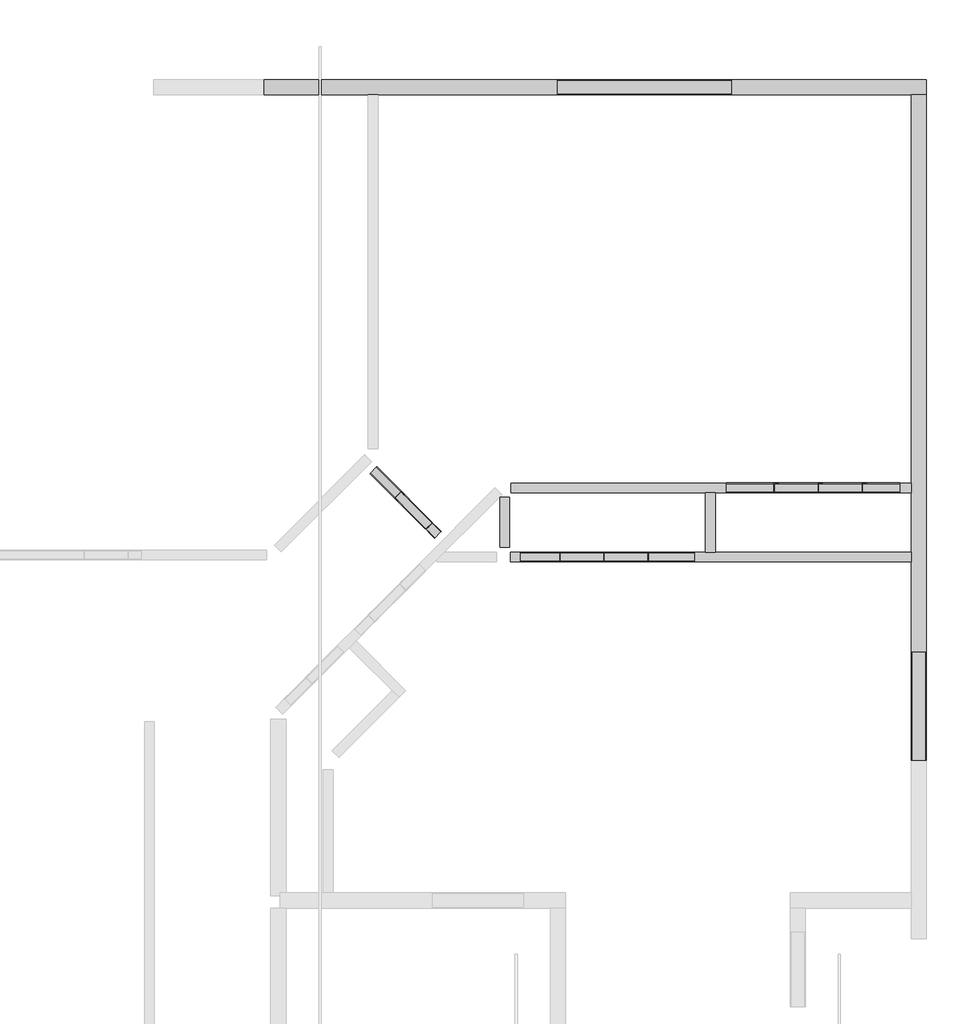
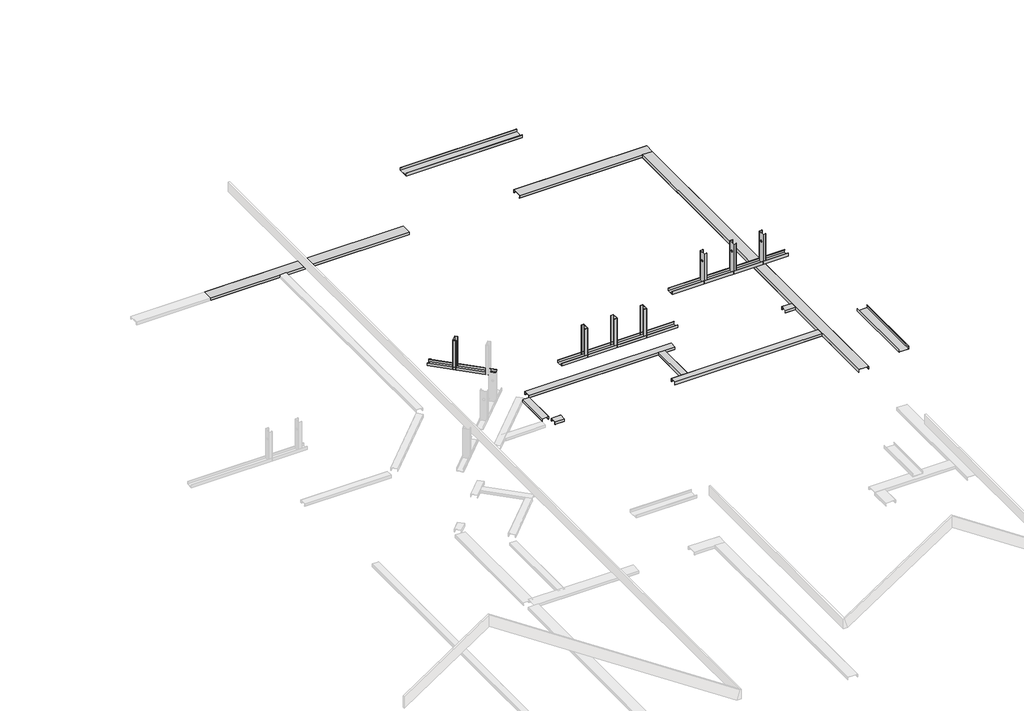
# One storey, part 4 of 4: 14 beams, 7 columns.
"""IFC4 building model written with IfcOpenShell, lengths in millimetres."""

from ifc_helpers import new_model, si_unit, point, frame, origin, place, context, project, spatial, circle_curve, ellipse_curve, trimmed, transform, mapped, element, save
from ifc_brep_helpers import plane_surface, extruded_surface, advanced_brep
from components import beam_350nf150_33_5259f048, beam_350nf150_33_edcdebb8, beam_350nf150_33_9bf1c67c, beam_350nf150_33_264438c5, beam_350nf150_33_f9f27d49, beam_350nf150_33_606cd853, beam_350nf150_33_bf93f831, beam_350nf150_33_fd0ba1fb, beam_550nf150_43_f91dca98, beam_550nf150_43_3a52a995, beam_550nf150_43_ef4a749e, beam_550nf150_43_a34c4b9f, beam_550nf150_43_d58292a1, column_350nf150_33_ca50317c

model = new_model("IFC4")

# Units and contexts
model_context = context("Model", 3, world=origin())
ifc_project = project(units=[si_unit("LENGTHUNIT", "METRE", prefix="MILLI")], contexts=[model_context])

# Site, building, storey
site = spatial("IfcSite", under=ifc_project)
building = spatial("IfcBuilding", under=site)
storey = spatial("IfcBuildingStorey", under=building, Name="H.H. Level 2", Elevation=5143.5)

# Beams
placement = place(None, origin())
beam_350nf150_33_shape = beam_350nf150_33_5259f048(model_context)
element("IfcBeam", 1, ObjectType="BIMSF-SSMA-S : 350NF150-33", at=placement, inside=storey, context=model_context, shape_type="MappedRepresentation", body=[
    mapped(beam_350nf150_33_shape, transform((-7863.2486153, 10116.5864223, 5111.75), x_axis=(0.7071067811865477, -0.7071067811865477, 0.0), y_axis=(0.0, 0.0, -1.0000000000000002), z_axis=(0.7071067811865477, 0.7071067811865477, 0.0))),
])
beam_350nf150_33_2_shape = beam_350nf150_33_edcdebb8(model_context)
element("IfcBeam", 2, ObjectType="BIMSF-SSMA-S : 350NF150-33", at=placement, inside=storey, context=model_context, shape_type="MappedRepresentation", body=[
    mapped(beam_350nf150_33_2_shape, transform((-4113.3413349, 10251.1207511, 5111.75), x_axis=(1.0000000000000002, 0.0, 0.0), y_axis=(0.0, 0.0, -1.0000000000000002), z_axis=(0.0, 1.0000000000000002, 0.0))),
])
element("IfcBeam", 3, ObjectType="BIMSF-SSMA-S : 350NF150-33", at=placement, inside=storey, context=model_context, shape_type="MappedRepresentation", body=[
    mapped(beam_350nf150_33_2_shape, transform((-6004.3049045, 9615.2035298, 5111.75), x_axis=(-1.0000000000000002, 0.0, 0.0), y_axis=(0.0, 0.0, -1.0000000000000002), z_axis=(0.0, -1.0000000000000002, 0.0))),
])
beam_350nf150_33_3_shape = beam_350nf150_33_9bf1c67c(model_context)
element("IfcBeam", 4, ObjectType="BIMSF-SSMA-S : 350NF150-33", at=placement, inside=storey, context=model_context, shape_type="MappedRepresentation", body=[
    mapped(beam_350nf150_33_3_shape, transform((-5883.4515983, 10251.1207511, 4292.61016), x_axis=(1.0, 0.0, 0.0), y_axis=(0.0, 0.0, 1.0), z_axis=(0.0, -1.0, 0.0))),
])
beam_350nf150_33_4_shape = beam_350nf150_33_264438c5(model_context)
element("IfcBeam", 5, ObjectType="BIMSF-SSMA-S : 350NF150-33", at=placement, inside=storey, context=model_context, shape_type="MappedRepresentation", body=[
    mapped(beam_350nf150_33_4_shape, transform((-3281.4913349, 10251.1207511, 4292.61016), x_axis=(1.0, 0.0, 0.0), y_axis=(0.0, 0.0, 1.0), z_axis=(0.0, -1.0, 0.0))),
])
beam_350nf150_33_5_shape = beam_350nf150_33_f9f27d49(model_context)
element("IfcBeam", 6, ObjectType="BIMSF-SSMA-S : 350NF150-33", at=placement, inside=storey, context=model_context, shape_type="MappedRepresentation", body=[
    mapped(beam_350nf150_33_5_shape, transform((-4226.9731197, 9615.2035298, 4292.61016), x_axis=(-1.0, 0.0, 0.0), y_axis=(0.0, 0.0, 1.0), z_axis=(0.0, 1.0, 0.0))),
])
beam_350nf150_33_6_shape = beam_350nf150_33_606cd853(model_context)
element("IfcBeam", 7, ObjectType="BIMSF-SSMA-S : 350NF150-33", at=placement, inside=storey, context=model_context, shape_type="MappedRepresentation", body=[
    mapped(beam_350nf150_33_6_shape, transform((-6832.1861545, 9615.2035298, 4292.61016), x_axis=(-1.0, 0.0, 0.0), y_axis=(0.0, 0.0, 1.0), z_axis=(0.0, 1.0, 0.0))),
])
beam_350nf150_33_7_shape = beam_350nf150_33_bf93f831(model_context)
element("IfcBeam", 8, ObjectType="BIMSF-SSMA-S : 350NF150-33", at=placement, inside=storey, context=model_context, shape_type="MappedRepresentation", body=[
    mapped(beam_350nf150_33_7_shape, transform((-6950.4549045, 9935.1465154, 4292.61016), x_axis=(0.0, -1.0, 0.0), y_axis=(0.0, 0.0, 1.0), z_axis=(-1.0, 0.0, 0.0))),
])
beam_350nf150_33_8_shape = beam_350nf150_33_fd0ba1fb(model_context)
element("IfcBeam", 9, ObjectType="BIMSF-SSMA-S : 350NF150-33", at=placement, inside=storey, context=model_context, shape_type="MappedRepresentation", body=[
    mapped(beam_350nf150_33_8_shape, transform((-5058.8231197, 9933.1621404, 4292.61016), x_axis=(0.0, 1.0, 0.0), y_axis=(0.0, 0.0, 1.0), z_axis=(1.0, 0.0, 0.0))),
])
beam_550nf150_43_shape = beam_550nf150_43_f91dca98(model_context)
element("IfcBeam", 10, ObjectType="BIMSF-SSMA-S : 550NF150-43", at=placement, inside=storey, context=model_context, shape_type="MappedRepresentation", body=[
    mapped(beam_550nf150_43_shape, transform((-3141.7913349, 8242.9332511, 5162.55), x_axis=(0.0, -1.0000000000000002, 0.0), y_axis=(0.0, 0.0, -1.0000000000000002), z_axis=(1.0000000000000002, 0.0, 0.0))),
])
beam_550nf150_43_2_shape = beam_550nf150_43_3a52a995(model_context)
element("IfcBeam", 11, ObjectType="BIMSF-SSMA-S : 550NF150-43", at=placement, inside=storey, context=model_context, shape_type="MappedRepresentation", body=[
    mapped(beam_550nf150_43_2_shape, transform((-3141.7913349, 11282.742736, 4292.61016), x_axis=(0.0, -1.0, 0.0), y_axis=(0.0, 0.0, 1.0), z_axis=(-1.0, 0.0, 0.0))),
])
beam_550nf150_43_3_shape = beam_550nf150_43_ef4a749e(model_context)
element("IfcBeam", 12, ObjectType="BIMSF-SSMA-S : 550NF150-43", at=placement, inside=storey, context=model_context, shape_type="MappedRepresentation", body=[
    mapped(beam_550nf150_43_3_shape, transform((-5665.3824436, 13935.202221, 5162.55), x_axis=(1.0000000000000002, 0.0, 0.0), y_axis=(0.0, 0.0, -1.0000000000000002), z_axis=(0.0, 1.0000000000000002, 0.0))),
])
beam_550nf150_43_4_shape = beam_550nf150_43_a34c4b9f(model_context)
element("IfcBeam", 13, ObjectType="BIMSF-SSMA-S : 550NF150-43", at=placement, inside=storey, context=model_context, shape_type="MappedRepresentation", body=[
    mapped(beam_550nf150_43_4_shape, transform((-3987.6618893, 13935.202221, 4292.61016), x_axis=(1.0, 0.0, 0.0), y_axis=(0.0, 0.0, 1.0), z_axis=(0.0, -1.0, 0.0))),
])
beam_550nf150_43_5_shape = beam_550nf150_43_d58292a1(model_context)
element("IfcBeam", 14, ObjectType="BIMSF-SSMA-S : 550NF150-43", at=placement, inside=storey, context=model_context, shape_type="MappedRepresentation", body=[
    mapped(beam_550nf150_43_5_shape, transform((-7797.6618893, 13935.202221, 4292.61016), x_axis=(1.0, 0.0, 0.0), y_axis=(0.0, 0.0, 1.0), z_axis=(0.0, -1.0, 0.0))),
])

# Columns
element("IfcColumn", 15, ObjectType="BIMSF-SSMA-S-Column : 350NF150-33", at=placement, inside=storey, context=model_context, shape_type="AdvancedBrep", body=[
    advanced_brep(
    [(-4472.2118616, 10206.6707511, 5096.7679688), (-4472.2118616, 10295.5707511, 5096.7679688), (-4434.1118616, 10295.5707511, 5096.7679688), (-4434.1118616, 10289.9132353, 5096.7679688), (-4434.9941774, 10289.9132353, 5096.7679688), (-4434.9941774, 10294.6884353, 5096.7679688), (-4471.3295459, 10294.6884353, 5096.7679688), (-4471.3295459, 10207.5530669, 5096.7679688), (-4434.9941774, 10207.5530669, 5096.7679688), (-4434.9941774, 10212.3282669, 5096.7679688), (-4434.1118616, 10212.3282669, 5096.7679688), (-4434.1118616, 10206.6707511, 5096.7679688), (-4472.2118616, 10206.6707511, 5523.6070313), (-4472.2118616, 10295.5707511, 5523.6070313), (-4472.2118616, 10263.8207511, 5401.5679688), (-4472.2118616, 10238.4207511, 5401.5679688), (-4434.1118616, 10295.5707511, 5523.6070313), (-4434.1118616, 10289.9132353, 5523.6070313), (-4434.9941774, 10289.9132353, 5523.6070313), (-4434.9941774, 10294.6884353, 5523.6070313), (-4471.3295459, 10294.6884353, 5523.6070313), (-4471.3295459, 10207.5530669, 5523.6070313), (-4471.3295459, 10238.4207511, 5401.5679688), (-4471.3295459, 10263.8207511, 5401.5679688), (-4434.9941774, 10207.5530669, 5523.6070313), (-4434.9941774, 10212.3282669, 5523.6070313), (-4434.1118616, 10212.3282669, 5523.6070313), (-4434.1118616, 10206.6707511, 5523.6070313)],
    [
        (0, 1),
        (1, 2),
        (2, 3),
        (3, 4),
        (4, 5),
        (5, 6),
        (6, 7),
        (7, 8),
        (8, 9),
        (9, 10),
        (10, 11),
        (11, 0),
        (0, 12),
        (12, 13),
        (13, 1),
        (14, 15, circle_curve(frame((-4472.2118616, 10251.1207511, 5401.5679688), z_axis=(1.0, 0.0, 0.0), x_axis=(0.0, 1.0, 0.0)), 12.7)),
        (15, 14, circle_curve(frame((-4472.2118616, 10251.1207511, 5401.5679688), z_axis=(1.0, 0.0, 0.0), x_axis=(0.0, 1.0, 0.0)), 12.7)),
        (13, 16),
        (16, 2),
        (16, 17),
        (17, 3),
        (17, 18),
        (18, 4),
        (18, 19),
        (19, 5),
        (19, 20),
        (20, 6),
        (20, 21),
        (21, 7),
        (22, 23, circle_curve(frame((-4471.3295459, 10251.1207511, 5401.5679688), z_axis=(-1.0, 0.0, 0.0), x_axis=(0.0, 1.0, 0.0)), 12.7)),
        (23, 22, circle_curve(frame((-4471.3295459, 10251.1207511, 5401.5679688), z_axis=(-1.0, 0.0, 0.0), x_axis=(0.0, 1.0, 0.0)), 12.7)),
        (21, 24),
        (24, 8),
        (24, 25),
        (25, 9),
        (25, 26),
        (26, 10),
        (26, 27),
        (27, 11),
        (27, 12),
        (22, 15),
        (14, 23),
    ],
    [
        plane_surface(frame((-4472.2118616, 10206.6707511, 5096.7679688), z_axis=(0.0, 0.0, -1.0), x_axis=(-1.0, 0.0, 0.0))),
        plane_surface(frame((-4472.2118616, 10295.5707511, 5523.6070313), z_axis=(-1.0, 0.0, 0.0), x_axis=(0.0, 0.0, -1.0))),
        plane_surface(frame((-4434.1118616, 10295.5707511, 5523.6070313), z_axis=(0.0, 1.0, 0.0), x_axis=(0.0, 0.0, -1.0))),
        plane_surface(frame((-4434.1118616, 10289.9132353, 5523.6070313), z_axis=(1.0, 0.0, 0.0), x_axis=(0.0, 0.0, -1.0))),
        plane_surface(frame((-4434.9941774, 10289.9132353, 5523.6070313), z_axis=(0.0, -1.0, 0.0), x_axis=(0.0, 0.0, -1.0))),
        plane_surface(frame((-4434.9941774, 10294.6884353, 5523.6070313), z_axis=(-1.0, 0.0, 0.0), x_axis=(0.0, 0.0, -1.0))),
        plane_surface(frame((-4471.3295459, 10294.6884353, 5523.6070313), z_axis=(0.0, -1.0, 0.0), x_axis=(0.0, 0.0, -1.0))),
        plane_surface(frame((-4471.3295459, 10207.5530669, 5523.6070313), z_axis=(1.0, 0.0, 0.0), x_axis=(0.0, 0.0, -1.0))),
        plane_surface(frame((-4434.9941774, 10207.5530669, 5523.6070313), z_axis=(0.0, 1.0, 0.0), x_axis=(0.0, 0.0, -1.0))),
        plane_surface(frame((-4434.9941774, 10212.3282669, 5523.6070313), z_axis=(-1.0, 0.0, 0.0), x_axis=(0.0, 0.0, -1.0))),
        plane_surface(frame((-4434.1118616, 10212.3282669, 5523.6070313), z_axis=(0.0, 1.0, 0.0), x_axis=(0.0, 0.0, -1.0))),
        plane_surface(frame((-4434.1118616, 10206.6707511, 5523.6070313), z_axis=(1.0, 0.0, 0.0), x_axis=(0.0, 0.0, -1.0))),
        plane_surface(frame((-4472.2118616, 10206.6707511, 5523.6070313), z_axis=(0.0, -1.0, 0.0), x_axis=(0.0, 0.0, -1.0))),
        plane_surface(frame((-4472.2118616, 10206.6707511, 5523.6070313), z_axis=(0.0, 0.0, 1.0), x_axis=(1.0, 0.0, 0.0))),
        extruded_surface(trimmed(ellipse_curve(frame((-4026.3227991, 10251.1207511, 5401.5679688), z_axis=(-1.0, 0.0, 0.0), x_axis=(0.0, 1.0, 0.0)), 12.7, 12.7), [point((-4026.3227991, 10238.4207511, 5401.5679688))], [point((-4026.3227991, 10263.8207511, 5401.5679688))], True, "CARTESIAN"), (853.6781249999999, 0.0, 0.0), 853.6781249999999),
        extruded_surface(trimmed(ellipse_curve(frame((-4026.3227991, 10251.1207511, 5401.5679688), z_axis=(-1.0, 0.0, 0.0), x_axis=(0.0, 1.0, 0.0)), 12.7, 12.7), [point((-4026.3227991, 10263.8207511, 5401.5679688))], [point((-4026.3227991, 10238.4207511, 5401.5679688))], True, "CARTESIAN"), (853.6781249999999, 0.0, 0.0), 853.6781249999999),
    ],
    [
        (0, [[1, 2, 3, 4, 5, 6, 7, 8, 9, 10, 11, 12]]),
        (1, [[-1, 13, 14, 15], [16, 17]]),
        (2, [[-2, -15, 18, 19]]),
        (3, [[-3, -19, 20, 21]]),
        (4, [[-4, -21, 22, 23]]),
        (5, [[-5, -23, 24, 25]]),
        (6, [[-6, -25, 26, 27]]),
        (7, [[-7, -27, 28, 29], [30, 31]]),
        (8, [[-8, -29, 32, 33]]),
        (9, [[-9, -33, 34, 35]]),
        (10, [[-10, -35, 36, 37]]),
        (11, [[-11, -37, 38, 39]]),
        (12, [[-12, -39, 40, -13]]),
        (13, [[-14, -40, -38, -36, -34, -32, -28, -26, -24, -22, -20, -18]]),
        (14, [[41, -16, 42, -30]]),
        (15, [[-41, -31, -42, -17]]),
    ],
),
])
element("IfcColumn", 16, ObjectType="BIMSF-SSMA-S-Column : 350NF150-33", at=placement, inside=storey, context=model_context, shape_type="AdvancedBrep", body=[
    advanced_brep(
    [(-4065.8118616, 10206.6707511, 5096.7679688), (-4065.8118616, 10295.5707511, 5096.7679688), (-4027.7118616, 10295.5707511, 5096.7679688), (-4027.7118616, 10289.9132353, 5096.7679688), (-4028.5941774, 10289.9132353, 5096.7679688), (-4028.5941774, 10294.6884353, 5096.7679688), (-4064.9295459, 10294.6884353, 5096.7679688), (-4064.9295459, 10207.5530669, 5096.7679688), (-4028.5941774, 10207.5530669, 5096.7679688), (-4028.5941774, 10212.3282669, 5096.7679688), (-4027.7118616, 10212.3282669, 5096.7679688), (-4027.7118616, 10206.6707511, 5096.7679688), (-4065.8118616, 10206.6707511, 5523.6070313), (-4065.8118616, 10295.5707511, 5523.6070313), (-4065.8118616, 10263.8207511, 5401.5679688), (-4065.8118616, 10238.4207511, 5401.5679688), (-4027.7118616, 10295.5707511, 5523.6070313), (-4027.7118616, 10289.9132353, 5523.6070313), (-4028.5941774, 10289.9132353, 5523.6070313), (-4028.5941774, 10294.6884353, 5523.6070313), (-4064.9295459, 10294.6884353, 5523.6070313), (-4064.9295459, 10207.5530669, 5523.6070313), (-4064.9295459, 10238.4207511, 5401.5679688), (-4064.9295459, 10263.8207511, 5401.5679688), (-4028.5941774, 10207.5530669, 5523.6070313), (-4028.5941774, 10212.3282669, 5523.6070313), (-4027.7118616, 10212.3282669, 5523.6070313), (-4027.7118616, 10206.6707511, 5523.6070313)],
    [
        (0, 1),
        (1, 2),
        (2, 3),
        (3, 4),
        (4, 5),
        (5, 6),
        (6, 7),
        (7, 8),
        (8, 9),
        (9, 10),
        (10, 11),
        (11, 0),
        (0, 12),
        (12, 13),
        (13, 1),
        (14, 15, circle_curve(frame((-4065.8118616, 10251.1207511, 5401.5679688), z_axis=(1.0, 0.0, 0.0), x_axis=(0.0, 1.0, 0.0)), 12.7)),
        (15, 14, circle_curve(frame((-4065.8118616, 10251.1207511, 5401.5679688), z_axis=(1.0, 0.0, 0.0), x_axis=(0.0, 1.0, 0.0)), 12.7)),
        (13, 16),
        (16, 2),
        (16, 17),
        (17, 3),
        (17, 18),
        (18, 4),
        (18, 19),
        (19, 5),
        (19, 20),
        (20, 6),
        (20, 21),
        (21, 7),
        (22, 23, circle_curve(frame((-4064.9295459, 10251.1207511, 5401.5679688), z_axis=(-1.0, 0.0, 0.0), x_axis=(0.0, 1.0, 0.0)), 12.7)),
        (23, 22, circle_curve(frame((-4064.9295459, 10251.1207511, 5401.5679688), z_axis=(-1.0, 0.0, 0.0), x_axis=(0.0, 1.0, 0.0)), 12.7)),
        (21, 24),
        (24, 8),
        (24, 25),
        (25, 9),
        (25, 26),
        (26, 10),
        (26, 27),
        (27, 11),
        (27, 12),
        (22, 15),
        (14, 23),
    ],
    [
        plane_surface(frame((-4065.8118616, 10206.6707511, 5096.7679688), z_axis=(0.0, 0.0, -1.0), x_axis=(-1.0, 0.0, 0.0))),
        plane_surface(frame((-4065.8118616, 10295.5707511, 5523.6070313), z_axis=(-1.0, 0.0, 0.0), x_axis=(0.0, 0.0, -1.0))),
        plane_surface(frame((-4027.7118616, 10295.5707511, 5523.6070313), z_axis=(0.0, 1.0, 0.0), x_axis=(0.0, 0.0, -1.0))),
        plane_surface(frame((-4027.7118616, 10289.9132353, 5523.6070313), z_axis=(1.0, 0.0, 0.0), x_axis=(0.0, 0.0, -1.0))),
        plane_surface(frame((-4028.5941774, 10289.9132353, 5523.6070313), z_axis=(0.0, -1.0, 0.0), x_axis=(0.0, 0.0, -1.0))),
        plane_surface(frame((-4028.5941774, 10294.6884353, 5523.6070313), z_axis=(-1.0, 0.0, 0.0), x_axis=(0.0, 0.0, -1.0))),
        plane_surface(frame((-4064.9295459, 10294.6884353, 5523.6070313), z_axis=(0.0, -1.0, 0.0), x_axis=(0.0, 0.0, -1.0))),
        plane_surface(frame((-4064.9295459, 10207.5530669, 5523.6070313), z_axis=(1.0, 0.0, 0.0), x_axis=(0.0, 0.0, -1.0))),
        plane_surface(frame((-4028.5941774, 10207.5530669, 5523.6070313), z_axis=(0.0, 1.0, 0.0), x_axis=(0.0, 0.0, -1.0))),
        plane_surface(frame((-4028.5941774, 10212.3282669, 5523.6070313), z_axis=(-1.0, 0.0, 0.0), x_axis=(0.0, 0.0, -1.0))),
        plane_surface(frame((-4027.7118616, 10212.3282669, 5523.6070313), z_axis=(0.0, 1.0, 0.0), x_axis=(0.0, 0.0, -1.0))),
        plane_surface(frame((-4027.7118616, 10206.6707511, 5523.6070313), z_axis=(1.0, 0.0, 0.0), x_axis=(0.0, 0.0, -1.0))),
        plane_surface(frame((-4065.8118616, 10206.6707511, 5523.6070313), z_axis=(0.0, -1.0, 0.0), x_axis=(0.0, 0.0, -1.0))),
        plane_surface(frame((-4065.8118616, 10206.6707511, 5523.6070313), z_axis=(0.0, 0.0, 1.0), x_axis=(1.0, 0.0, 0.0))),
        extruded_surface(trimmed(ellipse_curve(frame((-3619.9227991, 10251.1207511, 5401.5679688), z_axis=(-1.0, 0.0, 0.0), x_axis=(0.0, 1.0, 0.0)), 12.7, 12.7), [point((-3619.9227991, 10238.4207511, 5401.5679688))], [point((-3619.9227991, 10263.8207511, 5401.5679688))], True, "CARTESIAN"), (853.6781249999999, 0.0, 0.0), 853.6781249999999),
        extruded_surface(trimmed(ellipse_curve(frame((-3619.9227991, 10251.1207511, 5401.5679688), z_axis=(-1.0, 0.0, 0.0), x_axis=(0.0, 1.0, 0.0)), 12.7, 12.7), [point((-3619.9227991, 10263.8207511, 5401.5679688))], [point((-3619.9227991, 10238.4207511, 5401.5679688))], True, "CARTESIAN"), (853.6781249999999, 0.0, 0.0), 853.6781249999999),
    ],
    [
        (0, [[1, 2, 3, 4, 5, 6, 7, 8, 9, 10, 11, 12]]),
        (1, [[-1, 13, 14, 15], [16, 17]]),
        (2, [[-2, -15, 18, 19]]),
        (3, [[-3, -19, 20, 21]]),
        (4, [[-4, -21, 22, 23]]),
        (5, [[-5, -23, 24, 25]]),
        (6, [[-6, -25, 26, 27]]),
        (7, [[-7, -27, 28, 29], [30, 31]]),
        (8, [[-8, -29, 32, 33]]),
        (9, [[-9, -33, 34, 35]]),
        (10, [[-10, -35, 36, 37]]),
        (11, [[-11, -37, 38, 39]]),
        (12, [[-12, -39, 40, -13]]),
        (13, [[-14, -40, -38, -36, -34, -32, -28, -26, -24, -22, -20, -18]]),
        (14, [[41, -16, 42, -30]]),
        (15, [[-41, -31, -42, -17]]),
    ],
),
])
element("IfcColumn", 17, ObjectType="BIMSF-SSMA-S-Column : 350NF150-33", at=placement, inside=storey, context=model_context, shape_type="AdvancedBrep", body=[
    advanced_brep(
    [(-3659.4118616, 10206.6707511, 5096.7679688), (-3659.4118616, 10295.5707511, 5096.7679688), (-3621.3118616, 10295.5707511, 5096.7679688), (-3621.3118616, 10289.9132353, 5096.7679688), (-3622.1941774, 10289.9132353, 5096.7679688), (-3622.1941774, 10294.6884353, 5096.7679688), (-3658.5295459, 10294.6884353, 5096.7679688), (-3658.5295459, 10207.5530669, 5096.7679688), (-3622.1941774, 10207.5530669, 5096.7679688), (-3622.1941774, 10212.3282669, 5096.7679688), (-3621.3118616, 10212.3282669, 5096.7679688), (-3621.3118616, 10206.6707511, 5096.7679688), (-3659.4118616, 10206.6707511, 5523.6070313), (-3659.4118616, 10295.5707511, 5523.6070313), (-3659.4118616, 10263.8207511, 5401.5679688), (-3659.4118616, 10238.4207511, 5401.5679688), (-3621.3118616, 10295.5707511, 5523.6070313), (-3621.3118616, 10289.9132353, 5523.6070313), (-3622.1941774, 10289.9132353, 5523.6070313), (-3622.1941774, 10294.6884353, 5523.6070313), (-3658.5295459, 10294.6884353, 5523.6070313), (-3658.5295459, 10207.5530669, 5523.6070313), (-3658.5295459, 10238.4207511, 5401.5679688), (-3658.5295459, 10263.8207511, 5401.5679688), (-3622.1941774, 10207.5530669, 5523.6070313), (-3622.1941774, 10212.3282669, 5523.6070313), (-3621.3118616, 10212.3282669, 5523.6070313), (-3621.3118616, 10206.6707511, 5523.6070313)],
    [
        (0, 1),
        (1, 2),
        (2, 3),
        (3, 4),
        (4, 5),
        (5, 6),
        (6, 7),
        (7, 8),
        (8, 9),
        (9, 10),
        (10, 11),
        (11, 0),
        (0, 12),
        (12, 13),
        (13, 1),
        (14, 15, circle_curve(frame((-3659.4118616, 10251.1207511, 5401.5679688), z_axis=(1.0, 0.0, 0.0), x_axis=(0.0, 1.0, 0.0)), 12.7)),
        (15, 14, circle_curve(frame((-3659.4118616, 10251.1207511, 5401.5679688), z_axis=(1.0, 0.0, 0.0), x_axis=(0.0, 1.0, 0.0)), 12.7)),
        (13, 16),
        (16, 2),
        (16, 17),
        (17, 3),
        (17, 18),
        (18, 4),
        (18, 19),
        (19, 5),
        (19, 20),
        (20, 6),
        (20, 21),
        (21, 7),
        (22, 23, circle_curve(frame((-3658.5295459, 10251.1207511, 5401.5679688), z_axis=(-1.0, 0.0, 0.0), x_axis=(0.0, 1.0, 0.0)), 12.7)),
        (23, 22, circle_curve(frame((-3658.5295459, 10251.1207511, 5401.5679687), z_axis=(-1.0, 0.0, 0.0), x_axis=(0.0, 1.0, 0.0)), 12.7)),
        (21, 24),
        (24, 8),
        (24, 25),
        (25, 9),
        (25, 26),
        (26, 10),
        (26, 27),
        (27, 11),
        (27, 12),
        (22, 15),
        (14, 23),
    ],
    [
        plane_surface(frame((-3659.4118616, 10206.6707511, 5096.7679688), z_axis=(0.0, 0.0, -1.0), x_axis=(-1.0, 0.0, 0.0))),
        plane_surface(frame((-3659.4118616, 10295.5707511, 5523.6070313), z_axis=(-1.0, 0.0, 0.0), x_axis=(0.0, 0.0, -1.0))),
        plane_surface(frame((-3621.3118616, 10295.5707511, 5523.6070313), z_axis=(0.0, 1.0, 0.0), x_axis=(0.0, 0.0, -1.0))),
        plane_surface(frame((-3621.3118616, 10289.9132353, 5523.6070313), z_axis=(1.0, 0.0, 0.0), x_axis=(0.0, 0.0, -1.0))),
        plane_surface(frame((-3622.1941774, 10289.9132353, 5523.6070313), z_axis=(0.0, -1.0, 0.0), x_axis=(0.0, 0.0, -1.0))),
        plane_surface(frame((-3622.1941774, 10294.6884353, 5523.6070313), z_axis=(-1.0, 0.0, 0.0), x_axis=(0.0, 0.0, -1.0))),
        plane_surface(frame((-3658.5295459, 10294.6884353, 5523.6070313), z_axis=(0.0, -1.0, 0.0), x_axis=(0.0, 0.0, -1.0))),
        plane_surface(frame((-3658.5295459, 10207.5530669, 5523.6070313), z_axis=(1.0, 0.0, 0.0), x_axis=(0.0, 0.0, -1.0))),
        plane_surface(frame((-3622.1941774, 10207.5530669, 5523.6070313), z_axis=(0.0, 1.0, 0.0), x_axis=(0.0, 0.0, -1.0))),
        plane_surface(frame((-3622.1941774, 10212.3282669, 5523.6070313), z_axis=(-1.0, 0.0, 0.0), x_axis=(0.0, 0.0, -1.0))),
        plane_surface(frame((-3621.3118616, 10212.3282669, 5523.6070313), z_axis=(0.0, 1.0, 0.0), x_axis=(0.0, 0.0, -1.0))),
        plane_surface(frame((-3621.3118616, 10206.6707511, 5523.6070313), z_axis=(1.0, 0.0, 0.0), x_axis=(0.0, 0.0, -1.0))),
        plane_surface(frame((-3659.4118616, 10206.6707511, 5523.6070313), z_axis=(0.0, -1.0, 0.0), x_axis=(0.0, 0.0, -1.0))),
        plane_surface(frame((-3659.4118616, 10206.6707511, 5523.6070313), z_axis=(0.0, 0.0, 1.0), x_axis=(1.0, 0.0, 0.0))),
        extruded_surface(trimmed(ellipse_curve(frame((-3213.5227991, 10251.1207511, 5401.5679688), z_axis=(-1.0, 0.0, 0.0), x_axis=(0.0, 1.0, 0.0)), 12.7, 12.7), [point((-3213.5227991, 10238.4207511, 5401.5679688))], [point((-3213.5227991, 10263.8207511, 5401.5679688))], True, "CARTESIAN"), (853.6781250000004, 0.0, 0.0), 853.6781250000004),
        extruded_surface(trimmed(ellipse_curve(frame((-3213.5227991, 10251.1207511, 5401.5679688), z_axis=(-1.0, 0.0, 0.0), x_axis=(0.0, 1.0, 0.0)), 12.7, 12.7), [point((-3213.5227991, 10263.8207511, 5401.5679688))], [point((-3213.5227991, 10238.4207511, 5401.5679688))], True, "CARTESIAN"), (853.6781250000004, 0.0, 0.0), 853.6781250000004),
    ],
    [
        (0, [[1, 2, 3, 4, 5, 6, 7, 8, 9, 10, 11, 12]]),
        (1, [[-1, 13, 14, 15], [16, 17]]),
        (2, [[-2, -15, 18, 19]]),
        (3, [[-3, -19, 20, 21]]),
        (4, [[-4, -21, 22, 23]]),
        (5, [[-5, -23, 24, 25]]),
        (6, [[-6, -25, 26, 27]]),
        (7, [[-7, -27, 28, 29], [30, 31]]),
        (8, [[-8, -29, 32, 33]]),
        (9, [[-9, -33, 34, 35]]),
        (10, [[-10, -35, 36, 37]]),
        (11, [[-11, -37, 38, 39]]),
        (12, [[-12, -39, 40, -13]]),
        (13, [[-14, -40, -38, -36, -34, -32, -28, -26, -24, -22, -20, -18]]),
        (14, [[41, -16, 42, -30]]),
        (15, [[-41, -31, -42, -17]]),
    ],
),
])
element("IfcColumn", 18, ObjectType="BIMSF-SSMA-S-Column : 350NF150-33", at=placement, inside=storey, context=model_context, shape_type="AdvancedBrep", body=[
    advanced_brep(
    [(-5630.9913349, 9659.6535298, 5096.7679688), (-5630.9913349, 9570.7535298, 5096.7679688), (-5669.0913349, 9570.7535298, 5096.7679688), (-5669.0913349, 9576.4110455, 5096.7679688), (-5668.2090191, 9576.4110455, 5096.7679688), (-5668.2090191, 9571.6358455, 5096.7679688), (-5631.8736507, 9571.6358455, 5096.7679688), (-5631.8736507, 9658.771214, 5096.7679688), (-5668.2090191, 9658.771214, 5096.7679688), (-5668.2090191, 9653.996014, 5096.7679688), (-5669.0913349, 9653.996014, 5096.7679688), (-5669.0913349, 9659.6535298, 5096.7679688), (-5630.9913349, 9659.6535298, 5523.6070313), (-5630.9913349, 9570.7535298, 5523.6070313), (-5630.9913349, 9602.5035298, 5401.5679688), (-5630.9913349, 9627.9035298, 5401.5679688), (-5669.0913349, 9570.7535298, 5523.6070313), (-5669.0913349, 9576.4110455, 5523.6070313), (-5668.2090191, 9576.4110455, 5523.6070313), (-5668.2090191, 9571.6358455, 5523.6070313), (-5631.8736507, 9571.6358455, 5523.6070313), (-5631.8736507, 9658.771214, 5523.6070313), (-5631.8736507, 9627.9035298, 5401.5679688), (-5631.8736507, 9602.5035298, 5401.5679688), (-5668.2090191, 9658.771214, 5523.6070313), (-5668.2090191, 9653.996014, 5523.6070313), (-5669.0913349, 9653.996014, 5523.6070313), (-5669.0913349, 9659.6535298, 5523.6070313)],
    [
        (0, 1),
        (1, 2),
        (2, 3),
        (3, 4),
        (4, 5),
        (5, 6),
        (6, 7),
        (7, 8),
        (8, 9),
        (9, 10),
        (10, 11),
        (11, 0),
        (0, 12),
        (12, 13),
        (13, 1),
        (14, 15, circle_curve(frame((-5630.9913349, 9615.2035298, 5401.5679688), z_axis=(-1.0, 0.0, 0.0), x_axis=(0.0, -1.0, 0.0)), 12.7)),
        (15, 14, circle_curve(frame((-5630.9913349, 9615.2035298, 5401.5679688), z_axis=(-1.0, 0.0, 0.0), x_axis=(0.0, -1.0, 0.0)), 12.7)),
        (13, 16),
        (16, 2),
        (16, 17),
        (17, 3),
        (17, 18),
        (18, 4),
        (18, 19),
        (19, 5),
        (19, 20),
        (20, 6),
        (20, 21),
        (21, 7),
        (22, 23, circle_curve(frame((-5631.8736507, 9615.2035298, 5401.5679688), z_axis=(1.0, 0.0, 0.0), x_axis=(0.0, -1.0, 0.0)), 12.7)),
        (23, 22, circle_curve(frame((-5631.8736507, 9615.2035298, 5401.5679688), z_axis=(1.0, 0.0, 0.0), x_axis=(0.0, -1.0, 0.0)), 12.7)),
        (21, 24),
        (24, 8),
        (24, 25),
        (25, 9),
        (25, 26),
        (26, 10),
        (26, 27),
        (27, 11),
        (27, 12),
        (22, 15),
        (14, 23),
    ],
    [
        plane_surface(frame((-5630.9913349, 9659.6535298, 5096.7679688), z_axis=(0.0, 0.0, -1.0), x_axis=(1.0, 0.0, 0.0))),
        plane_surface(frame((-5630.9913349, 9570.7535298, 5523.6070313), z_axis=(1.0, 0.0, 0.0), x_axis=(0.0, 0.0, -1.0))),
        plane_surface(frame((-5669.0913349, 9570.7535298, 5523.6070313), z_axis=(0.0, -1.0, 0.0), x_axis=(0.0, 0.0, -1.0))),
        plane_surface(frame((-5669.0913349, 9576.4110455, 5523.6070313), z_axis=(-1.0, 0.0, 0.0), x_axis=(0.0, 0.0, -1.0))),
        plane_surface(frame((-5668.2090191, 9576.4110455, 5523.6070313), z_axis=(0.0, 1.0, 0.0), x_axis=(0.0, 0.0, -1.0))),
        plane_surface(frame((-5668.2090191, 9571.6358455, 5523.6070313), z_axis=(1.0, 0.0, 0.0), x_axis=(0.0, 0.0, -1.0))),
        plane_surface(frame((-5631.8736507, 9571.6358455, 5523.6070313), z_axis=(0.0, 1.0, 0.0), x_axis=(0.0, 0.0, -1.0))),
        plane_surface(frame((-5631.8736507, 9658.771214, 5523.6070313), z_axis=(-1.0, 0.0, 0.0), x_axis=(0.0, 0.0, -1.0))),
        plane_surface(frame((-5668.2090191, 9658.771214, 5523.6070313), z_axis=(0.0, -1.0, 0.0), x_axis=(0.0, 0.0, -1.0))),
        plane_surface(frame((-5668.2090191, 9653.996014, 5523.6070313), z_axis=(1.0, 0.0, 0.0), x_axis=(0.0, 0.0, -1.0))),
        plane_surface(frame((-5669.0913349, 9653.996014, 5523.6070313), z_axis=(0.0, -1.0, 0.0), x_axis=(0.0, 0.0, -1.0))),
        plane_surface(frame((-5669.0913349, 9659.6535298, 5523.6070313), z_axis=(-1.0, 0.0, 0.0), x_axis=(0.0, 0.0, -1.0))),
        plane_surface(frame((-5630.9913349, 9659.6535298, 5523.6070313), z_axis=(0.0, 1.0, 0.0), x_axis=(0.0, 0.0, -1.0))),
        plane_surface(frame((-5630.9913349, 9659.6535298, 5523.6070313), z_axis=(0.0, 0.0, 1.0), x_axis=(-1.0, 0.0, 0.0))),
        extruded_surface(trimmed(ellipse_curve(frame((-6076.8803974, 9615.2035298, 5401.5679688), z_axis=(1.0, 0.0, 0.0), x_axis=(0.0, -1.0, 0.0)), 12.7, 12.7), [point((-6076.8803974, 9627.9035298, 5401.5679688))], [point((-6076.8803974, 9602.5035298, 5401.5679688))], True, "CARTESIAN"), (-853.6781249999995, 0.0, 0.0), 853.6781249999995),
        extruded_surface(trimmed(ellipse_curve(frame((-6076.8803974, 9615.2035298, 5401.5679688), z_axis=(1.0, 0.0, 0.0), x_axis=(0.0, -1.0, 0.0)), 12.7, 12.7), [point((-6076.8803974, 9602.5035298, 5401.5679688))], [point((-6076.8803974, 9627.9035298, 5401.5679688))], True, "CARTESIAN"), (-853.6781249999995, 0.0, 0.0), 853.6781249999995),
    ],
    [
        (0, [[1, 2, 3, 4, 5, 6, 7, 8, 9, 10, 11, 12]]),
        (1, [[-1, 13, 14, 15], [16, 17]]),
        (2, [[-2, -15, 18, 19]]),
        (3, [[-3, -19, 20, 21]]),
        (4, [[-4, -21, 22, 23]]),
        (5, [[-5, -23, 24, 25]]),
        (6, [[-6, -25, 26, 27]]),
        (7, [[-7, -27, 28, 29], [30, 31]]),
        (8, [[-8, -29, 32, 33]]),
        (9, [[-9, -33, 34, 35]]),
        (10, [[-10, -35, 36, 37]]),
        (11, [[-11, -37, 38, 39]]),
        (12, [[-12, -39, 40, -13]]),
        (13, [[-14, -40, -38, -36, -34, -32, -28, -26, -24, -22, -20, -18]]),
        (14, [[41, -16, 42, -30]]),
        (15, [[-41, -31, -42, -17]]),
    ],
),
])
element("IfcColumn", 19, ObjectType="BIMSF-SSMA-S-Column : 350NF150-33", at=placement, inside=storey, context=model_context, shape_type="AdvancedBrep", body=[
    advanced_brep(
    [(-6037.3913349, 9659.6535298, 5096.7679688), (-6037.3913349, 9570.7535298, 5096.7679688), (-6075.4913349, 9570.7535298, 5096.7679688), (-6075.4913349, 9576.4110455, 5096.7679688), (-6074.6090191, 9576.4110455, 5096.7679688), (-6074.6090191, 9571.6358455, 5096.7679688), (-6038.2736507, 9571.6358455, 5096.7679688), (-6038.2736507, 9658.771214, 5096.7679688), (-6074.6090191, 9658.771214, 5096.7679688), (-6074.6090191, 9653.996014, 5096.7679688), (-6075.4913349, 9653.996014, 5096.7679688), (-6075.4913349, 9659.6535298, 5096.7679688), (-6037.3913349, 9659.6535298, 5523.6070313), (-6037.3913349, 9570.7535298, 5523.6070313), (-6037.3913349, 9602.5035298, 5401.5679688), (-6037.3913349, 9627.9035298, 5401.5679688), (-6075.4913349, 9570.7535298, 5523.6070313), (-6075.4913349, 9576.4110455, 5523.6070313), (-6074.6090191, 9576.4110455, 5523.6070313), (-6074.6090191, 9571.6358455, 5523.6070313), (-6038.2736507, 9571.6358455, 5523.6070313), (-6038.2736507, 9658.771214, 5523.6070313), (-6038.2736507, 9627.9035298, 5401.5679688), (-6038.2736507, 9602.5035298, 5401.5679688), (-6074.6090191, 9658.771214, 5523.6070313), (-6074.6090191, 9653.996014, 5523.6070313), (-6075.4913349, 9653.996014, 5523.6070313), (-6075.4913349, 9659.6535298, 5523.6070313)],
    [
        (0, 1),
        (1, 2),
        (2, 3),
        (3, 4),
        (4, 5),
        (5, 6),
        (6, 7),
        (7, 8),
        (8, 9),
        (9, 10),
        (10, 11),
        (11, 0),
        (0, 12),
        (12, 13),
        (13, 1),
        (14, 15, circle_curve(frame((-6037.3913349, 9615.2035298, 5401.5679688), z_axis=(-1.0, 0.0, 0.0), x_axis=(0.0, -1.0, 0.0)), 12.7)),
        (15, 14, circle_curve(frame((-6037.3913349, 9615.2035298, 5401.5679688), z_axis=(-1.0, 0.0, 0.0), x_axis=(0.0, -1.0, 0.0)), 12.7)),
        (13, 16),
        (16, 2),
        (16, 17),
        (17, 3),
        (17, 18),
        (18, 4),
        (18, 19),
        (19, 5),
        (19, 20),
        (20, 6),
        (20, 21),
        (21, 7),
        (22, 23, circle_curve(frame((-6038.2736507, 9615.2035298, 5401.5679688), z_axis=(1.0, 0.0, 0.0), x_axis=(0.0, -1.0, 0.0)), 12.7)),
        (23, 22, circle_curve(frame((-6038.2736507, 9615.2035298, 5401.5679688), z_axis=(1.0, 0.0, 0.0), x_axis=(0.0, -1.0, 0.0)), 12.7)),
        (21, 24),
        (24, 8),
        (24, 25),
        (25, 9),
        (25, 26),
        (26, 10),
        (26, 27),
        (27, 11),
        (27, 12),
        (22, 15),
        (14, 23),
    ],
    [
        plane_surface(frame((-6037.3913349, 9659.6535298, 5096.7679688), z_axis=(0.0, 0.0, -1.0), x_axis=(1.0, 0.0, 0.0))),
        plane_surface(frame((-6037.3913349, 9570.7535298, 5523.6070313), z_axis=(1.0, 0.0, 0.0), x_axis=(0.0, 0.0, -1.0))),
        plane_surface(frame((-6075.4913349, 9570.7535298, 5523.6070313), z_axis=(0.0, -1.0, 0.0), x_axis=(0.0, 0.0, -1.0))),
        plane_surface(frame((-6075.4913349, 9576.4110455, 5523.6070313), z_axis=(-1.0, 0.0, 0.0), x_axis=(0.0, 0.0, -1.0))),
        plane_surface(frame((-6074.6090191, 9576.4110455, 5523.6070313), z_axis=(0.0, 1.0, 0.0), x_axis=(0.0, 0.0, -1.0))),
        plane_surface(frame((-6074.6090191, 9571.6358455, 5523.6070313), z_axis=(1.0, 0.0, 0.0), x_axis=(0.0, 0.0, -1.0))),
        plane_surface(frame((-6038.2736507, 9571.6358455, 5523.6070313), z_axis=(0.0, 1.0, 0.0), x_axis=(0.0, 0.0, -1.0))),
        plane_surface(frame((-6038.2736507, 9658.771214, 5523.6070313), z_axis=(-1.0, 0.0, 0.0), x_axis=(0.0, 0.0, -1.0))),
        plane_surface(frame((-6074.6090191, 9658.771214, 5523.6070313), z_axis=(0.0, -1.0, 0.0), x_axis=(0.0, 0.0, -1.0))),
        plane_surface(frame((-6074.6090191, 9653.996014, 5523.6070313), z_axis=(1.0, 0.0, 0.0), x_axis=(0.0, 0.0, -1.0))),
        plane_surface(frame((-6075.4913349, 9653.996014, 5523.6070313), z_axis=(0.0, -1.0, 0.0), x_axis=(0.0, 0.0, -1.0))),
        plane_surface(frame((-6075.4913349, 9659.6535298, 5523.6070313), z_axis=(-1.0, 0.0, 0.0), x_axis=(0.0, 0.0, -1.0))),
        plane_surface(frame((-6037.3913349, 9659.6535298, 5523.6070313), z_axis=(0.0, 1.0, 0.0), x_axis=(0.0, 0.0, -1.0))),
        plane_surface(frame((-6037.3913349, 9659.6535298, 5523.6070313), z_axis=(0.0, 0.0, 1.0), x_axis=(-1.0, 0.0, 0.0))),
        extruded_surface(trimmed(ellipse_curve(frame((-6483.2803974, 9615.2035298, 5401.5679688), z_axis=(1.0, 0.0, 0.0), x_axis=(0.0, -1.0, 0.0)), 12.7, 12.7), [point((-6483.2803974, 9627.9035298, 5401.5679688))], [point((-6483.2803974, 9602.5035298, 5401.5679688))], True, "CARTESIAN"), (-853.6781250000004, 0.0, 0.0), 853.6781250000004),
        extruded_surface(trimmed(ellipse_curve(frame((-6483.2803974, 9615.2035298, 5401.5679688), z_axis=(1.0, 0.0, 0.0), x_axis=(0.0, -1.0, 0.0)), 12.7, 12.7), [point((-6483.2803974, 9602.5035298, 5401.5679688))], [point((-6483.2803974, 9627.9035298, 5401.5679688))], True, "CARTESIAN"), (-853.6781250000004, 0.0, 0.0), 853.6781250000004),
    ],
    [
        (0, [[1, 2, 3, 4, 5, 6, 7, 8, 9, 10, 11, 12]]),
        (1, [[-1, 13, 14, 15], [16, 17]]),
        (2, [[-2, -15, 18, 19]]),
        (3, [[-3, -19, 20, 21]]),
        (4, [[-4, -21, 22, 23]]),
        (5, [[-5, -23, 24, 25]]),
        (6, [[-6, -25, 26, 27]]),
        (7, [[-7, -27, 28, 29], [30, 31]]),
        (8, [[-8, -29, 32, 33]]),
        (9, [[-9, -33, 34, 35]]),
        (10, [[-10, -35, 36, 37]]),
        (11, [[-11, -37, 38, 39]]),
        (12, [[-12, -39, 40, -13]]),
        (13, [[-14, -40, -38, -36, -34, -32, -28, -26, -24, -22, -20, -18]]),
        (14, [[41, -16, 42, -30]]),
        (15, [[-41, -31, -42, -17]]),
    ],
),
])
element("IfcColumn", 20, ObjectType="BIMSF-SSMA-S-Column : 350NF150-33", at=placement, inside=storey, context=model_context, shape_type="AdvancedBrep", body=[
    advanced_brep(
    [(-6443.7913349, 9659.6535298, 5096.7679688), (-6443.7913349, 9570.7535298, 5096.7679688), (-6481.8913349, 9570.7535298, 5096.7679688), (-6481.8913349, 9576.4110455, 5096.7679688), (-6481.0090191, 9576.4110455, 5096.7679688), (-6481.0090191, 9571.6358455, 5096.7679688), (-6444.6736507, 9571.6358455, 5096.7679688), (-6444.6736507, 9658.771214, 5096.7679688), (-6481.0090191, 9658.771214, 5096.7679688), (-6481.0090191, 9653.996014, 5096.7679688), (-6481.8913349, 9653.996014, 5096.7679688), (-6481.8913349, 9659.6535298, 5096.7679688), (-6443.7913349, 9659.6535298, 5523.6070313), (-6443.7913349, 9570.7535298, 5523.6070313), (-6443.7913349, 9602.5035298, 5401.5679688), (-6443.7913349, 9627.9035298, 5401.5679688), (-6481.8913349, 9570.7535298, 5523.6070313), (-6481.8913349, 9576.4110455, 5523.6070313), (-6481.0090191, 9576.4110455, 5523.6070313), (-6481.0090191, 9571.6358455, 5523.6070313), (-6444.6736507, 9571.6358455, 5523.6070313), (-6444.6736507, 9658.771214, 5523.6070313), (-6444.6736507, 9627.9035298, 5401.5679688), (-6444.6736507, 9602.5035298, 5401.5679688), (-6481.0090191, 9658.771214, 5523.6070313), (-6481.0090191, 9653.996014, 5523.6070313), (-6481.8913349, 9653.996014, 5523.6070313), (-6481.8913349, 9659.6535298, 5523.6070313)],
    [
        (0, 1),
        (1, 2),
        (2, 3),
        (3, 4),
        (4, 5),
        (5, 6),
        (6, 7),
        (7, 8),
        (8, 9),
        (9, 10),
        (10, 11),
        (11, 0),
        (0, 12),
        (12, 13),
        (13, 1),
        (14, 15, circle_curve(frame((-6443.7913349, 9615.2035298, 5401.5679688), z_axis=(-1.0, 0.0, 0.0), x_axis=(0.0, -1.0, 0.0)), 12.7)),
        (15, 14, circle_curve(frame((-6443.7913349, 9615.2035298, 5401.5679688), z_axis=(-1.0, 0.0, 0.0), x_axis=(0.0, -1.0, 0.0)), 12.7)),
        (13, 16),
        (16, 2),
        (16, 17),
        (17, 3),
        (17, 18),
        (18, 4),
        (18, 19),
        (19, 5),
        (19, 20),
        (20, 6),
        (20, 21),
        (21, 7),
        (22, 23, circle_curve(frame((-6444.6736507, 9615.2035298, 5401.5679688), z_axis=(1.0, 0.0, 0.0), x_axis=(0.0, -1.0, 0.0)), 12.7)),
        (23, 22, circle_curve(frame((-6444.6736507, 9615.2035298, 5401.5679688), z_axis=(1.0, 0.0, 0.0), x_axis=(0.0, -1.0, 0.0)), 12.7)),
        (21, 24),
        (24, 8),
        (24, 25),
        (25, 9),
        (25, 26),
        (26, 10),
        (26, 27),
        (27, 11),
        (27, 12),
        (22, 15),
        (14, 23),
    ],
    [
        plane_surface(frame((-6443.7913349, 9659.6535298, 5096.7679688), z_axis=(0.0, 0.0, -1.0), x_axis=(1.0, 0.0, 0.0))),
        plane_surface(frame((-6443.7913349, 9570.7535298, 5523.6070313), z_axis=(1.0, 0.0, 0.0), x_axis=(0.0, 0.0, -1.0))),
        plane_surface(frame((-6481.8913349, 9570.7535298, 5523.6070313), z_axis=(0.0, -1.0, 0.0), x_axis=(0.0, 0.0, -1.0))),
        plane_surface(frame((-6481.8913349, 9576.4110455, 5523.6070313), z_axis=(-1.0, 0.0, 0.0), x_axis=(0.0, 0.0, -1.0))),
        plane_surface(frame((-6481.0090191, 9576.4110455, 5523.6070313), z_axis=(0.0, 1.0, 0.0), x_axis=(0.0, 0.0, -1.0))),
        plane_surface(frame((-6481.0090191, 9571.6358455, 5523.6070313), z_axis=(1.0, 0.0, 0.0), x_axis=(0.0, 0.0, -1.0))),
        plane_surface(frame((-6444.6736507, 9571.6358455, 5523.6070313), z_axis=(0.0, 1.0, 0.0), x_axis=(0.0, 0.0, -1.0))),
        plane_surface(frame((-6444.6736507, 9658.771214, 5523.6070313), z_axis=(-1.0, 0.0, 0.0), x_axis=(0.0, 0.0, -1.0))),
        plane_surface(frame((-6481.0090191, 9658.771214, 5523.6070313), z_axis=(0.0, -1.0, 0.0), x_axis=(0.0, 0.0, -1.0))),
        plane_surface(frame((-6481.0090191, 9653.996014, 5523.6070313), z_axis=(1.0, 0.0, 0.0), x_axis=(0.0, 0.0, -1.0))),
        plane_surface(frame((-6481.8913349, 9653.996014, 5523.6070313), z_axis=(0.0, -1.0, 0.0), x_axis=(0.0, 0.0, -1.0))),
        plane_surface(frame((-6481.8913349, 9659.6535298, 5523.6070313), z_axis=(-1.0, 0.0, 0.0), x_axis=(0.0, 0.0, -1.0))),
        plane_surface(frame((-6443.7913349, 9659.6535298, 5523.6070313), z_axis=(0.0, 1.0, 0.0), x_axis=(0.0, 0.0, -1.0))),
        plane_surface(frame((-6443.7913349, 9659.6535298, 5523.6070313), z_axis=(0.0, 0.0, 1.0), x_axis=(-1.0, 0.0, 0.0))),
        extruded_surface(trimmed(ellipse_curve(frame((-6889.6803974, 9615.2035298, 5401.5679688), z_axis=(1.0, 0.0, 0.0), x_axis=(0.0, -1.0, 0.0)), 12.7, 12.7), [point((-6889.6803974, 9627.9035298, 5401.5679688))], [point((-6889.6803974, 9602.5035298, 5401.5679688))], True, "CARTESIAN"), (-853.6781249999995, 0.0, 0.0), 853.6781249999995),
        extruded_surface(trimmed(ellipse_curve(frame((-6889.6803974, 9615.2035298, 5401.5679688), z_axis=(1.0, 0.0, 0.0), x_axis=(0.0, -1.0, 0.0)), 12.7, 12.7), [point((-6889.6803974, 9602.5035298, 5401.5679688))], [point((-6889.6803974, 9627.9035298, 5401.5679688))], True, "CARTESIAN"), (-853.6781249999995, 0.0, 0.0), 853.6781249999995),
    ],
    [
        (0, [[1, 2, 3, 4, 5, 6, 7, 8, 9, 10, 11, 12]]),
        (1, [[-1, 13, 14, 15], [16, 17]]),
        (2, [[-2, -15, 18, 19]]),
        (3, [[-3, -19, 20, 21]]),
        (4, [[-4, -21, 22, 23]]),
        (5, [[-5, -23, 24, 25]]),
        (6, [[-6, -25, 26, 27]]),
        (7, [[-7, -27, 28, 29], [30, 31]]),
        (8, [[-8, -29, 32, 33]]),
        (9, [[-9, -33, 34, 35]]),
        (10, [[-10, -35, 36, 37]]),
        (11, [[-11, -37, 38, 39]]),
        (12, [[-12, -39, 40, -13]]),
        (13, [[-14, -40, -38, -36, -34, -32, -28, -26, -24, -22, -20, -18]]),
        (14, [[41, -16, 42, -30]]),
        (15, [[-41, -31, -42, -17]]),
    ],
),
])
column_350nf150_33_shape = column_350nf150_33_ca50317c(model_context)
element("IfcColumn", 21, ObjectType="BIMSF-SSMA-S-Column : 350NF150-33", at=placement, inside=storey, context=model_context, shape_type="MappedRepresentation", body=[
    mapped(column_350nf150_33_shape, transform((-7917.829759, 10186.3521537, 0.0), x_axis=(0.7071067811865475, -0.7071067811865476, 0.0), y_axis=(0.7071067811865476, 0.7071067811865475, 0.0), z_axis=(0.0, 0.0, 1.0))),
])

save(model, "model.ifc")
